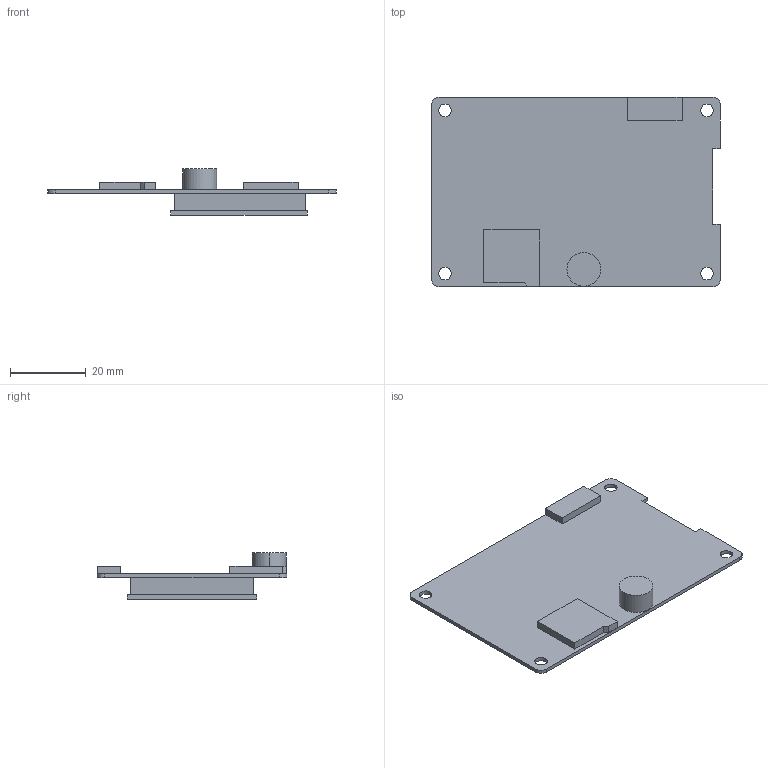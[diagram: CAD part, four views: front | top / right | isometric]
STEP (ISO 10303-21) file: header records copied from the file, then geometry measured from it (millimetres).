
FILE_DESCRIPTION((''),'2;1');
FILE_NAME('3D-DMG24240C015-03WTR-220902','2022-09-02T',('Administrator'),(''),'PRO/ENGINEER BY PARAMETRIC TECHNOLOGY CORPORATION, 2008380','PRO/ENGINEER BY PARAMETRIC TECHNOLOGY CORPORATION, 2008380','');
FILE_SCHEMA(('CONFIG_CONTROL_DESIGN'));
Length unit declared in the file: millimetre
Products named in the file (1): 3D-DMG24240C015-03WTR-220902
Bounding box: 76 x 50 x 12.2 mm (x, y, z)
Volume: 11172.2 mm3; surface area: 9065.4 mm2
Topology: 1 solids, 1 shells, 47 faces, 6514 edges, 10932 vertices
Faces by surface type: plane 33, cylinder 14
Entity records: 35400 total; most frequent: DIRECTION 8573, CARTESIAN_POINT 6642, TRIMMED_CURVE 6394, VECTOR 4551, LINE 4551, AXIS2_PLACEMENT_3D 2011, CIRCLE 1963, ORIENTED_EDGE 240
